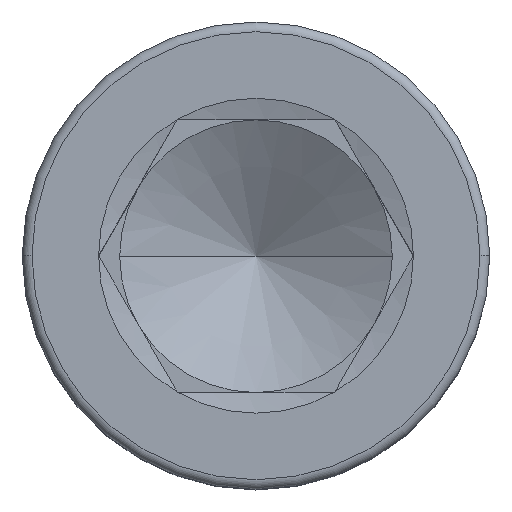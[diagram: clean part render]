
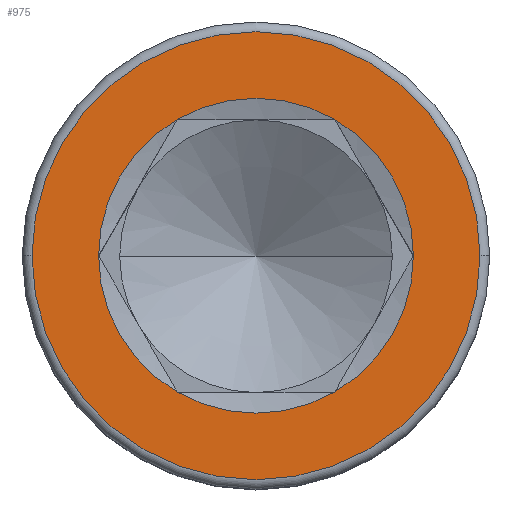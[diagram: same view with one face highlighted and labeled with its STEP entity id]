
A CAD part, top view. The second image highlights one B-rep face of the part: STEP entity #975.
In plain terms, the highlighted planar face has unit normal (0, 0, 1).
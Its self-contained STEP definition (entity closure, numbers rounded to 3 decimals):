
#89 = DIRECTION ( 'NONE',  ( 1., 0., 0. ) ) ;
#96 = DIRECTION ( 'NONE',  ( 1., 0., 0. ) ) ;
#123 = CARTESIAN_POINT ( 'NONE',  ( 0., 0., 16. ) ) ;
#130 = CARTESIAN_POINT ( 'NONE',  ( 0., 0., 16. ) ) ;
#138 = DIRECTION ( 'NONE',  ( 0., 0., 1. ) ) ;
#254 = ORIENTED_EDGE ( 'NONE', *, *, #1073, .F. ) ;
#287 = CARTESIAN_POINT ( 'NONE',  ( 0., 0., 16. ) ) ;
#301 = AXIS2_PLACEMENT_3D ( 'NONE', #971, #1433, #470 ) ;
#334 = AXIS2_PLACEMENT_3D ( 'NONE', #130, #1983, #1215 ) ;
#380 = CARTESIAN_POINT ( 'NONE',  ( 0., 0., 16. ) ) ;
#381 = CARTESIAN_POINT ( 'NONE',  ( -4.041, -7., 16. ) ) ;
#424 = EDGE_LOOP ( 'NONE', ( #1933, #1179, #478, #254, #1767, #445 ) ) ;
#441 = FACE_BOUND ( 'NONE', #424, .T. ) ;
#445 = ORIENTED_EDGE ( 'NONE', *, *, #977, .F. ) ;
#468 = CARTESIAN_POINT ( 'NONE',  ( 4.041, -7., 16. ) ) ;
#470 = DIRECTION ( 'NONE',  ( 1., 0., 0. ) ) ;
#478 = ORIENTED_EDGE ( 'NONE', *, *, #770, .F. ) ;
#519 = EDGE_LOOP ( 'NONE', ( #1950, #1257 ) ) ;
#532 = CIRCLE ( 'NONE', #763, 11.5 ) ;
#575 = CARTESIAN_POINT ( 'NONE',  ( 0., 0., 16. ) ) ;
#582 = VERTEX_POINT ( 'NONE', #723 ) ;
#589 = CARTESIAN_POINT ( 'NONE',  ( 8.083, 0., 16. ) ) ;
#613 = DIRECTION ( 'NONE',  ( 1., 0., 0. ) ) ;
#686 = DIRECTION ( 'NONE',  ( 0., 0., 1. ) ) ;
#689 = VERTEX_POINT ( 'NONE', #1679 ) ;
#723 = CARTESIAN_POINT ( 'NONE',  ( -4.041, 7., 16. ) ) ;
#746 = DIRECTION ( 'NONE',  ( 0., 0., 1. ) ) ;
#763 = AXIS2_PLACEMENT_3D ( 'NONE', #123, #138, #907 ) ;
#770 = EDGE_CURVE ( 'NONE', #1678, #1524, #1296, .T. ) ;
#822 = CIRCLE ( 'NONE', #1530, 8.083 ) ;
#907 = DIRECTION ( 'NONE',  ( 1., 0., 0. ) ) ;
#916 = AXIS2_PLACEMENT_3D ( 'NONE', #287, #1835, #1521 ) ;
#940 = EDGE_CURVE ( 'NONE', #582, #689, #1237, .T. ) ;
#971 = CARTESIAN_POINT ( 'NONE',  ( 0., 0., 16. ) ) ;
#975 = ADVANCED_FACE ( 'NONE', ( #1823, #441 ), #1047, .T. ) ;
#977 = EDGE_CURVE ( 'NONE', #1330, #582, #1658, .T. ) ;
#984 = CARTESIAN_POINT ( 'NONE',  ( 11.5, 0., 16. ) ) ;
#989 = CARTESIAN_POINT ( 'NONE',  ( 4.041, 7., 16. ) ) ;
#1003 = VERTEX_POINT ( 'NONE', #589 ) ;
#1047 = PLANE ( 'NONE',  #916 ) ;
#1073 = EDGE_CURVE ( 'NONE', #689, #1678, #822, .T. ) ;
#1102 = CARTESIAN_POINT ( 'NONE',  ( 0., 0., 16. ) ) ;
#1142 = AXIS2_PLACEMENT_3D ( 'NONE', #575, #1640, #89 ) ;
#1179 = ORIENTED_EDGE ( 'NONE', *, *, #1747, .F. ) ;
#1215 = DIRECTION ( 'NONE',  ( 1., 0., 0. ) ) ;
#1237 = CIRCLE ( 'NONE', #1788, 8.083 ) ;
#1257 = ORIENTED_EDGE ( 'NONE', *, *, #1317, .T. ) ;
#1267 = VERTEX_POINT ( 'NONE', #984 ) ;
#1296 = CIRCLE ( 'NONE', #301, 8.083 ) ;
#1302 = CIRCLE ( 'NONE', #1825, 11.5 ) ;
#1304 = CIRCLE ( 'NONE', #1142, 8.083 ) ;
#1306 = EDGE_CURVE ( 'NONE', #1003, #1330, #1754, .T. ) ;
#1317 = EDGE_CURVE ( 'NONE', #1370, #1267, #1302, .T. ) ;
#1325 = DIRECTION ( 'NONE',  ( 1., 0., 0. ) ) ;
#1330 = VERTEX_POINT ( 'NONE', #989 ) ;
#1354 = CARTESIAN_POINT ( 'NONE',  ( 0., 0., 16. ) ) ;
#1370 = VERTEX_POINT ( 'NONE', #1646 ) ;
#1433 = DIRECTION ( 'NONE',  ( 0., 0., 1. ) ) ;
#1521 = DIRECTION ( 'NONE',  ( 1., 0., 0. ) ) ;
#1524 = VERTEX_POINT ( 'NONE', #468 ) ;
#1530 = AXIS2_PLACEMENT_3D ( 'NONE', #1102, #746, #1551 ) ;
#1551 = DIRECTION ( 'NONE',  ( 1., 0., 0. ) ) ;
#1640 = DIRECTION ( 'NONE',  ( 0., 0., 1. ) ) ;
#1646 = CARTESIAN_POINT ( 'NONE',  ( -11.5, 0., 16. ) ) ;
#1658 = CIRCLE ( 'NONE', #334, 8.083 ) ;
#1678 = VERTEX_POINT ( 'NONE', #381 ) ;
#1679 = CARTESIAN_POINT ( 'NONE',  ( -8.083, 0., 16. ) ) ;
#1747 = EDGE_CURVE ( 'NONE', #1524, #1003, #1304, .T. ) ;
#1754 = CIRCLE ( 'NONE', #1888, 8.083 ) ;
#1767 = ORIENTED_EDGE ( 'NONE', *, *, #940, .F. ) ;
#1780 = DIRECTION ( 'NONE',  ( 0., 0., 1. ) ) ;
#1788 = AXIS2_PLACEMENT_3D ( 'NONE', #1354, #1975, #613 ) ;
#1823 = FACE_OUTER_BOUND ( 'NONE', #519, .T. ) ;
#1825 = AXIS2_PLACEMENT_3D ( 'NONE', #380, #686, #96 ) ;
#1835 = DIRECTION ( 'NONE',  ( 0., 0., 1. ) ) ;
#1888 = AXIS2_PLACEMENT_3D ( 'NONE', #1957, #1780, #1325 ) ;
#1898 = EDGE_CURVE ( 'NONE', #1267, #1370, #532, .T. ) ;
#1933 = ORIENTED_EDGE ( 'NONE', *, *, #1306, .F. ) ;
#1950 = ORIENTED_EDGE ( 'NONE', *, *, #1898, .T. ) ;
#1957 = CARTESIAN_POINT ( 'NONE',  ( 0., 0., 16. ) ) ;
#1975 = DIRECTION ( 'NONE',  ( 0., 0., 1. ) ) ;
#1983 = DIRECTION ( 'NONE',  ( 0., 0., 1. ) ) ;
